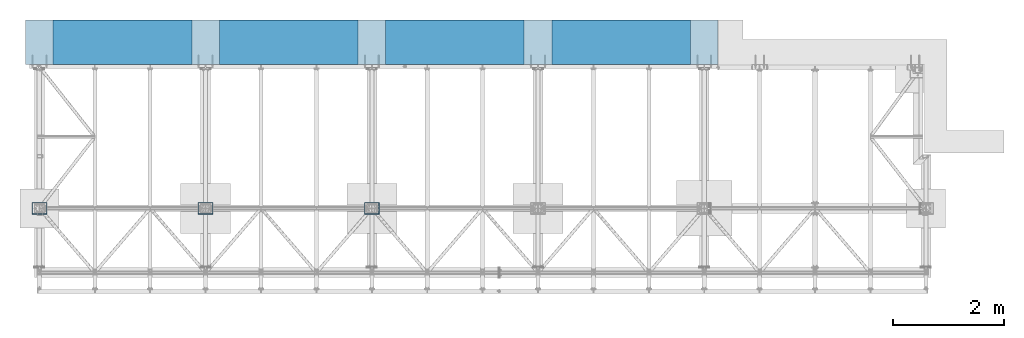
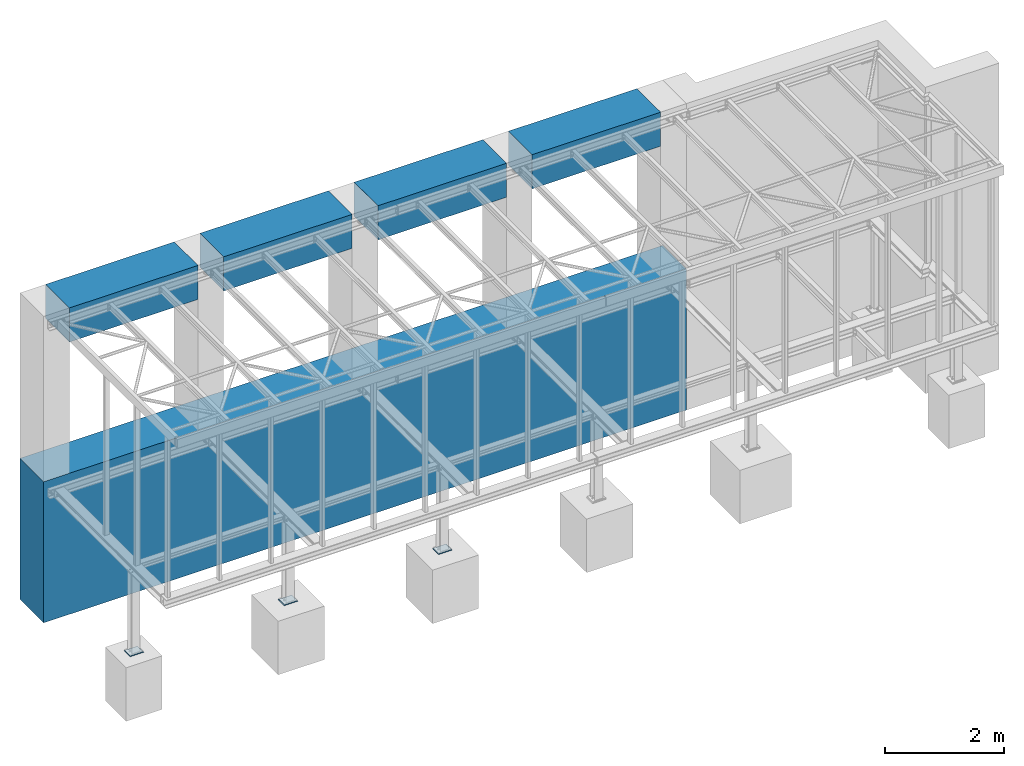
# One storey, part 7 of 22: 5 beams, 3 plates, 8 elements without a shape of their own.
"""IFC2X3 building model written with IfcOpenShell, lengths in millimetres."""

from ifc_helpers import new_model, si_unit, frame, origin_with_axes, place, context, subcontext, project, spatial, polyline, outline, extrude, boolean, faceted_brep, material, type_object, element, aggregate, save


model = new_model("IFC2X3")

# Units and contexts
model_context = context("Model", 3, precision=1e-05, world=origin_with_axes())
body_context = subcontext(model_context, "Body", "Model", "MODEL_VIEW")
ifc_project = project(units=[si_unit("LENGTHUNIT", "METRE", prefix="MILLI"), si_unit("AREAUNIT", "SQUARE_METRE"), si_unit("VOLUMEUNIT", "CUBIC_METRE"), si_unit("MASSUNIT", "GRAM", prefix="KILO"), si_unit("TIMEUNIT", "SECOND"), si_unit("PLANEANGLEUNIT", "RADIAN"), si_unit("SOLIDANGLEUNIT", "STERADIAN"), si_unit("THERMODYNAMICTEMPERATUREUNIT", "DEGREE_CELSIUS"), si_unit("LUMINOUSINTENSITYUNIT", "LUMEN")], contexts=[model_context])

# Site, building, storey
site_placement = place(None, origin_with_axes())
site = spatial("IfcSite", under=ifc_project, at=site_placement, Name="Undefined", CompositionType="ELEMENT")
building_placement = place(site_placement, origin_with_axes())
building = spatial("IfcBuilding", under=site, at=building_placement, Name="Undefined", CompositionType="ELEMENT")
storey_placement = place(building_placement, origin_with_axes())
storey = spatial("IfcBuildingStorey", under=building, at=storey_placement, Name="Undefined", CompositionType="ELEMENT", Elevation=0.0)

# Assembly, beam
assembly_1_placement = place(storey_placement, origin_with_axes())
assembly_1 = element("IfcElementAssembly", 1, at=assembly_1_placement, inside=storey, AssemblyPlace="NOTDEFINED", PredefinedType="REINFORCEMENT_UNIT")
ifc_material_1 = material(Name="CONCRETE/C45/55")
beam_type_1 = type_object("IfcBeamType", Name="800*700", PredefinedType="NOTDEFINED")
beam_1_placement = place(assembly_1_placement, frame((3300.0, 4260.0, 3050.0), z_axis=(0.0, 0.0, 1.0), x_axis=(1.0, 0.0, 0.0)))
beam_1 = element("IfcBeam", 2, at=beam_1_placement, type_object=beam_type_1, material=ifc_material_1, Name="Preklad", ObjectType="800*700", context=body_context, shape_type="Brep", body=[
    faceted_brep([(0.0, 400.0, -350.0), (0.0, 400.0, 350.0), (2500.0, 400.0, 350.0), (2500.0, 400.0, -350.0), (0.0, -400.0, 350.0), (2500.0, -400.0, 350.0), (0.0, -400.0, -350.0), (2500.0, -400.0, -350.0)], [[[0, 1, 2, 3]], [[1, 4, 5, 2]], [[4, 6, 7, 5]], [[6, 0, 3, 7]], [[5, 7, 3, 2]], [[6, 4, 1, 0]]]),
])
aggregate(assembly_1, [beam_1])

assembly_2_placement = place(storey_placement, origin_with_axes())
assembly_2 = element("IfcElementAssembly", 3, at=assembly_2_placement, inside=storey, Name="BEAM", AssemblyPlace="NOTDEFINED", PredefinedType="REINFORCEMENT_UNIT")
beam_2_placement = place(assembly_2_placement, frame((9300.0, 4260.0, 3050.0), z_axis=(0.0, 0.0, 1.0), x_axis=(1.0, 0.0, 0.0)))
beam_2 = element("IfcBeam", 4, at=beam_2_placement, type_object=beam_type_1, material=ifc_material_1, Name="Preklad", ObjectType="800*700", context=body_context, shape_type="Brep", body=[
    faceted_brep([(0.0, 400.0, -350.0), (0.0, 400.0, 350.0), (2500.0, 400.0, 350.0), (2500.0, 400.0, -350.0), (0.0, -400.0, 350.0), (2500.0, -400.0, 350.0), (0.0, -400.0, -350.0), (2500.0, -400.0, -350.0)], [[[0, 1, 2, 3]], [[1, 4, 5, 2]], [[4, 6, 7, 5]], [[6, 0, 3, 7]], [[5, 7, 3, 2]], [[6, 4, 1, 0]]]),
])
aggregate(assembly_2, [beam_2])

assembly_3_placement = place(storey_placement, origin_with_axes())
assembly_3 = element("IfcElementAssembly", 5, at=assembly_3_placement, inside=storey, Name="BEAM", AssemblyPlace="NOTDEFINED", PredefinedType="REINFORCEMENT_UNIT")
beam_3_placement = place(assembly_3_placement, frame((6300.0, 4260.0, 3050.0), z_axis=(0.0, 0.0, 1.0), x_axis=(1.0, 0.0, 0.0)))
beam_3 = element("IfcBeam", 6, at=beam_3_placement, type_object=beam_type_1, material=ifc_material_1, Name="Preklad", ObjectType="800*700", context=body_context, shape_type="Brep", body=[
    faceted_brep([(0.0, 400.0, -350.0), (0.0, 400.0, 350.0), (2500.0, 400.0, 350.0), (2500.0, 400.0, -350.0), (0.0, -400.0, 350.0), (2500.0, -400.0, 350.0), (0.0, -400.0, -350.0), (2500.0, -400.0, -350.0)], [[[0, 1, 2, 3]], [[1, 4, 5, 2]], [[4, 6, 7, 5]], [[6, 0, 3, 7]], [[5, 7, 3, 2]], [[6, 4, 1, 0]]]),
])
aggregate(assembly_3, [beam_3])

assembly_4_placement = place(storey_placement, origin_with_axes())
assembly_4 = element("IfcElementAssembly", 7, at=assembly_4_placement, inside=storey, Name="BEAM", AssemblyPlace="NOTDEFINED", PredefinedType="REINFORCEMENT_UNIT")
beam_4_placement = place(assembly_4_placement, frame((300.0, 4260.0, 3050.0), z_axis=(0.0, 0.0, 1.0), x_axis=(1.0, 0.0, 0.0)))
beam_4 = element("IfcBeam", 8, at=beam_4_placement, type_object=beam_type_1, material=ifc_material_1, Name="Preklad", ObjectType="800*700", context=body_context, shape_type="Brep", body=[
    faceted_brep([(0.0, 400.0, -350.0), (0.0, 400.0, 350.0), (2500.0, 400.0, 350.0), (2500.0, 400.0, -350.0), (0.0, -400.0, 350.0), (2500.0, -400.0, 350.0), (0.0, -400.0, -350.0), (2500.0, -400.0, -350.0)], [[[0, 1, 2, 3]], [[1, 4, 5, 2]], [[4, 6, 7, 5]], [[6, 0, 3, 7]], [[5, 7, 3, 2]], [[6, 4, 1, 0]]]),
])
aggregate(assembly_4, [beam_4])

assembly_5_placement = place(storey_placement, origin_with_axes())
assembly_5 = element("IfcElementAssembly", 9, at=assembly_5_placement, inside=storey, Name="BEAM", AssemblyPlace="NOTDEFINED", PredefinedType="REINFORCEMENT_UNIT")
beam_type_2 = type_object("IfcBeamType", Name="800*2900", PredefinedType="NOTDEFINED")
beam_5_placement = place(assembly_5_placement, frame((-200.0, 4260.0, -1450.0), z_axis=(0.0, 0.0, 1.0), x_axis=(1.0, 0.0, 0.0)))
beam_5 = element("IfcBeam", 10, at=beam_5_placement, type_object=beam_type_2, material=ifc_material_1, Name="Stena", ObjectType="800*2900", context=body_context, shape_type="Brep", body=[
    faceted_brep([(0.0, 400.0, -1450.0), (0.0, 400.0, 1450.0), (12500.0, 400.0, 1450.0), (12500.0, 400.0, -1450.0), (0.0, -400.0, 1450.0), (12500.0, -400.0, 1450.0), (0.0, -400.0, -1450.0), (12500.0, -400.0, -1450.0)], [[[0, 1, 2, 3]], [[1, 4, 5, 2]], [[4, 6, 7, 5]], [[6, 0, 3, 7]], [[5, 7, 3, 2]], [[6, 4, 1, 0]]]),
])
aggregate(assembly_5, [beam_5])

# Assembly, plate
assembly_6_placement = place(storey_placement, origin_with_axes())
assembly_6 = element("IfcElementAssembly", 11, at=assembly_6_placement, inside=storey, Name="GROUT", AssemblyPlace="NOTDEFINED", PredefinedType="NOTDEFINED")
ifc_material_2 = material(Name="Undefined/GROUT")
plate_type = type_object("IfcPlateType", Name="PL10*212", PredefinedType="NOTDEFINED")
plate_1_placement = place(assembly_6_placement, frame((6185.0, 1154.0, -1995.0), z_axis=(0.0, 0.0, 1.0), x_axis=(0.0, 1.0, 0.0)))
plate_1 = element("IfcPlate", 12, at=plate_1_placement, type_object=plate_type, material=ifc_material_2, Name="GROUT", ObjectType="PL10*212", context=body_context, shape_type="CSG", body=[
    boolean("DIFFERENCE", boolean("DIFFERENCE", boolean("DIFFERENCE", boolean("DIFFERENCE", extrude(outline(polyline([(0.0, 0.0), (212.0, 0.0), (212.0, 270.0), (0.0, 270.0), (0.0, 0.0)])), frame((0.0, 0.0, -5.0), z_axis=(0.0, 0.0, 1.0), x_axis=(1.0, 0.0, 0.0)), (0.0, 0.0, 1.0), 10.0), extrude(outline(polyline([(0.0, 0.0), (30.1421356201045, -2.00088834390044e-11), (15.0710678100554, 15.0710678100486), (0.0, 0.0)])), frame((-5.65685424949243, 288.0, -10.6568542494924), z_axis=(0.0, -1.0, 0.0), x_axis=(0.707106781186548, 0.0, 0.707106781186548)), (0.0, 0.0, 1.0), 306.0)), extrude(outline(polyline([(0.0, 0.0), (28.1421356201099, -2.91038304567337e-11), (14.0710678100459, 14.0710678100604), (0.0, 0.0)])), frame((258.0, 274.949747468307, -9.94974746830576), z_axis=(-1.0, 0.0, 0.0), x_axis=(0.0, -0.707106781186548, 0.707106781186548)), (0.0, 0.0, 1.0), 304.0)), extrude(outline(polyline([(0.0, 0.0), (26.1421356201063, -2.1600499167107e-11), (13.0710678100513, 13.0710678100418), (0.0, 0.0)])), frame((216.242640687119, -16.0, -9.24264068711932), z_axis=(0.0, 1.0, 0.0), x_axis=(-0.707106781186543, 0.0, 0.707106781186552)), (0.0, 0.0, 1.0), 302.0)), extrude(outline(polyline([(0.0, 0.0), (24.1421356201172, -1.81898940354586e-11), (12.0710678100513, 12.071067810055), (0.0, 0.0)])), frame((-44.0, -3.53553390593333, -8.53553390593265), z_axis=(1.0, 0.0, 0.0), x_axis=(0.0, 0.707106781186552, 0.707106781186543)), (0.0, 0.0, 1.0), 300.0)),
])
aggregate(assembly_6, [plate_1])

assembly_7_placement = place(storey_placement, origin_with_axes())
assembly_7 = element("IfcElementAssembly", 13, at=assembly_7_placement, inside=storey, Name="GROUT", AssemblyPlace="NOTDEFINED", PredefinedType="NOTDEFINED")
plate_2_placement = place(assembly_7_placement, frame((3185.0, 1154.0, -1995.0), z_axis=(0.0, 0.0, 1.0), x_axis=(0.0, 1.0, 0.0)))
plate_2 = element("IfcPlate", 14, at=plate_2_placement, type_object=plate_type, material=ifc_material_2, Name="GROUT", ObjectType="PL10*212", context=body_context, shape_type="CSG", body=[
    boolean("DIFFERENCE", boolean("DIFFERENCE", boolean("DIFFERENCE", boolean("DIFFERENCE", extrude(outline(polyline([(0.0, 0.0), (212.0, 0.0), (212.0, 270.0), (0.0, 270.0), (0.0, 0.0)])), frame((0.0, 0.0, -5.0), z_axis=(0.0, 0.0, 1.0), x_axis=(1.0, 0.0, 0.0)), (0.0, 0.0, 1.0), 10.0), extrude(outline(polyline([(0.0, 0.0), (30.1421356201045, -2.00088834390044e-11), (15.0710678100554, 15.0710678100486), (0.0, 0.0)])), frame((-5.65685424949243, 288.0, -10.6568542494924), z_axis=(0.0, -1.0, 0.0), x_axis=(0.707106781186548, 0.0, 0.707106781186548)), (0.0, 0.0, 1.0), 306.0)), extrude(outline(polyline([(0.0, 0.0), (28.1421356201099, -2.91038304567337e-11), (14.0710678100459, 14.0710678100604), (0.0, 0.0)])), frame((258.0, 274.949747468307, -9.94974746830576), z_axis=(-1.0, 0.0, 0.0), x_axis=(0.0, -0.707106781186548, 0.707106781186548)), (0.0, 0.0, 1.0), 304.0)), extrude(outline(polyline([(0.0, 0.0), (26.1421356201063, -2.1600499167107e-11), (13.0710678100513, 13.0710678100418), (0.0, 0.0)])), frame((216.242640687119, -16.0, -9.24264068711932), z_axis=(0.0, 1.0, 0.0), x_axis=(-0.707106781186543, 0.0, 0.707106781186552)), (0.0, 0.0, 1.0), 302.0)), extrude(outline(polyline([(0.0, 0.0), (24.1421356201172, -1.81898940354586e-11), (12.0710678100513, 12.071067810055), (0.0, 0.0)])), frame((-44.0, -3.53553390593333, -8.53553390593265), z_axis=(1.0, 0.0, 0.0), x_axis=(0.0, 0.707106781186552, 0.707106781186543)), (0.0, 0.0, 1.0), 300.0)),
])
aggregate(assembly_7, [plate_2])

assembly_8_placement = place(storey_placement, origin_with_axes())
assembly_8 = element("IfcElementAssembly", 15, at=assembly_8_placement, inside=storey, Name="GROUT", AssemblyPlace="NOTDEFINED", PredefinedType="NOTDEFINED")
plate_3_placement = place(assembly_8_placement, frame((185.0, 1154.0, -1995.0), z_axis=(0.0, 0.0, 1.0), x_axis=(0.0, 1.0, 0.0)))
plate_3 = element("IfcPlate", 16, at=plate_3_placement, type_object=plate_type, material=ifc_material_2, Name="GROUT", ObjectType="PL10*212", context=body_context, shape_type="CSG", body=[
    boolean("DIFFERENCE", boolean("DIFFERENCE", boolean("DIFFERENCE", boolean("DIFFERENCE", extrude(outline(polyline([(0.0, 0.0), (212.0, 0.0), (212.0, 270.0), (0.0, 270.0), (0.0, 0.0)])), frame((0.0, 0.0, -5.0), z_axis=(0.0, 0.0, 1.0), x_axis=(1.0, 0.0, 0.0)), (0.0, 0.0, 1.0), 10.0), extrude(outline(polyline([(0.0, 0.0), (30.1421356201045, -2.00088834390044e-11), (15.0710678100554, 15.0710678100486), (0.0, 0.0)])), frame((-5.65685424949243, 288.0, -10.6568542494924), z_axis=(0.0, -1.0, 0.0), x_axis=(0.707106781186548, 0.0, 0.707106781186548)), (0.0, 0.0, 1.0), 306.0)), extrude(outline(polyline([(0.0, 0.0), (28.1421356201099, -2.91038304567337e-11), (14.0710678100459, 14.0710678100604), (0.0, 0.0)])), frame((258.0, 274.949747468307, -9.94974746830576), z_axis=(-1.0, 0.0, 0.0), x_axis=(0.0, -0.707106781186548, 0.707106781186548)), (0.0, 0.0, 1.0), 304.0)), extrude(outline(polyline([(0.0, 0.0), (26.1421356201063, -2.1600499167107e-11), (13.0710678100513, 13.0710678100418), (0.0, 0.0)])), frame((216.242640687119, -16.0, -9.24264068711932), z_axis=(0.0, 1.0, 0.0), x_axis=(-0.707106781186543, 0.0, 0.707106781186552)), (0.0, 0.0, 1.0), 302.0)), extrude(outline(polyline([(0.0, 0.0), (24.1421356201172, -1.81898940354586e-11), (12.0710678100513, 12.071067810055), (0.0, 0.0)])), frame((-44.0, -3.53553390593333, -8.53553390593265), z_axis=(1.0, 0.0, 0.0), x_axis=(0.0, 0.707106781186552, 0.707106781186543)), (0.0, 0.0, 1.0), 300.0)),
])
aggregate(assembly_8, [plate_3])

save(model, "model.ifc")
